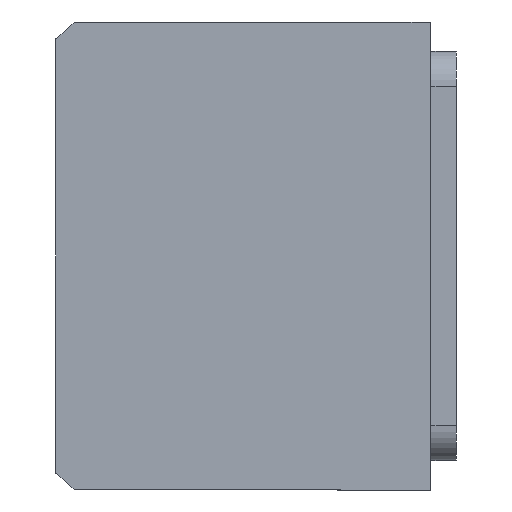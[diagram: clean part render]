
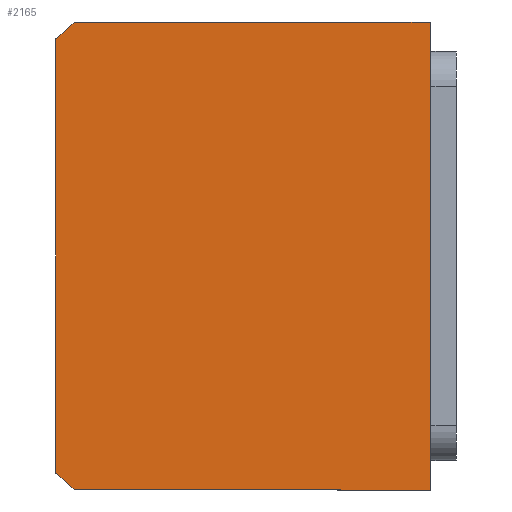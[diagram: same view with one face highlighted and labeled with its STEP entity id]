
A CAD part, front view. The second image highlights one B-rep face of the part: STEP entity #2165.
In plain terms, the highlighted planar face has unit normal (0, -1, 0) as drawn and (0, 0, -1) by its records, which use the part's own axes.
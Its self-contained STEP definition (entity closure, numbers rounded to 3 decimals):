
#164 = CARTESIAN_POINT ( 'NONE',  ( -40., -11.507, 0. ) ) ;
#493 = VERTEX_POINT ( 'NONE', #11518 ) ;
#1073 = AXIS2_PLACEMENT_3D ( 'NONE', #2153, #7303, #4019 ) ;
#1516 = LINE ( 'NONE', #6252, #9999 ) ;
#1610 = DIRECTION ( 'NONE',  ( 0., 0., 1. ) ) ;
#1967 = DIRECTION ( 'NONE',  ( -1., 0., 0. ) ) ;
#2108 = CARTESIAN_POINT ( 'NONE',  ( -40., -75.507, 0. ) ) ;
#2153 = CARTESIAN_POINT ( 'NONE',  ( 0., 0., 0. ) ) ;
#2165 = ADVANCED_FACE ( 'NONE', ( #10938 ), #8237, .F. ) ;
#2217 = VECTOR ( 'NONE', #7534, 1000. ) ;
#2400 = VECTOR ( 'NONE', #6383, 1000. ) ;
#2407 = VERTEX_POINT ( 'NONE', #164 ) ;
#2454 = ORIENTED_EDGE ( 'NONE', *, *, #11314, .F. ) ;
#2547 = LINE ( 'NONE', #6477, #2217 ) ;
#3073 = DIRECTION ( 'NONE',  ( 0., 0., 1. ) ) ;
#3463 = LINE ( 'NONE', #4931, #9093 ) ;
#3532 = AXIS2_PLACEMENT_3D ( 'NONE', #7964, #1610, #9038 ) ;
#3566 = CARTESIAN_POINT ( 'NONE',  ( -40., -72.145, 0. ) ) ;
#3927 = EDGE_CURVE ( 'NONE', #13275, #9666, #11217, .T. ) ;
#4009 = EDGE_CURVE ( 'NONE', #9666, #5254, #8035, .T. ) ;
#4019 = DIRECTION ( 'NONE',  ( 1., 0., 0. ) ) ;
#4792 = EDGE_CURVE ( 'NONE', #2407, #13275, #2547, .T. ) ;
#4794 = VERTEX_POINT ( 'NONE', #5213 ) ;
#4931 = CARTESIAN_POINT ( 'NONE',  ( 40., -11.507, 0. ) ) ;
#5213 = CARTESIAN_POINT ( 'NONE',  ( 40., -72.145, 0. ) ) ;
#5254 = VERTEX_POINT ( 'NONE', #9325 ) ;
#5366 = ORIENTED_EDGE ( 'NONE', *, *, #10077, .F. ) ;
#6252 = CARTESIAN_POINT ( 'NONE',  ( -40., -11.507, 0. ) ) ;
#6383 = DIRECTION ( 'NONE',  ( 1., 0., 0. ) ) ;
#6477 = CARTESIAN_POINT ( 'NONE',  ( -40., -11.507, 0. ) ) ;
#6721 = ORIENTED_EDGE ( 'NONE', *, *, #4792, .F. ) ;
#7303 = DIRECTION ( 'NONE',  ( 0., 0., 1. ) ) ;
#7534 = DIRECTION ( 'NONE',  ( 0., -1., 0. ) ) ;
#7964 = CARTESIAN_POINT ( 'NONE',  ( 0., -40.507, 0. ) ) ;
#8035 = LINE ( 'NONE', #2108, #2400 ) ;
#8237 = PLANE ( 'NONE',  #1073 ) ;
#9038 = DIRECTION ( 'NONE',  ( 1., 0., 0. ) ) ;
#9065 = CIRCLE ( 'NONE', #3532, 51. ) ;
#9093 = VECTOR ( 'NONE', #12348, 1000. ) ;
#9325 = CARTESIAN_POINT ( 'NONE',  ( 37.094, -75.507, 0. ) ) ;
#9431 = CARTESIAN_POINT ( 'NONE',  ( 0., -40.507, 0. ) ) ;
#9500 = ORIENTED_EDGE ( 'NONE', *, *, #3927, .F. ) ;
#9666 = VERTEX_POINT ( 'NONE', #13398 ) ;
#9868 = EDGE_LOOP ( 'NONE', ( #9500, #6721, #5366, #2454, #10092, #12101 ) ) ;
#9999 = VECTOR ( 'NONE', #1967, 1000. ) ;
#10077 = EDGE_CURVE ( 'NONE', #493, #2407, #1516, .T. ) ;
#10092 = ORIENTED_EDGE ( 'NONE', *, *, #13549, .F. ) ;
#10532 = DIRECTION ( 'NONE',  ( 1., 0., 0. ) ) ;
#10938 = FACE_OUTER_BOUND ( 'NONE', #9868, .T. ) ;
#11063 = AXIS2_PLACEMENT_3D ( 'NONE', #9431, #3073, #10532 ) ;
#11217 = CIRCLE ( 'NONE', #11063, 51. ) ;
#11314 = EDGE_CURVE ( 'NONE', #4794, #493, #3463, .T. ) ;
#11518 = CARTESIAN_POINT ( 'NONE',  ( 40., -11.507, 0. ) ) ;
#12101 = ORIENTED_EDGE ( 'NONE', *, *, #4009, .F. ) ;
#12348 = DIRECTION ( 'NONE',  ( 0., 1., 0. ) ) ;
#13275 = VERTEX_POINT ( 'NONE', #3566 ) ;
#13398 = CARTESIAN_POINT ( 'NONE',  ( -37.094, -75.507, 0. ) ) ;
#13549 = EDGE_CURVE ( 'NONE', #5254, #4794, #9065, .T. ) ;
